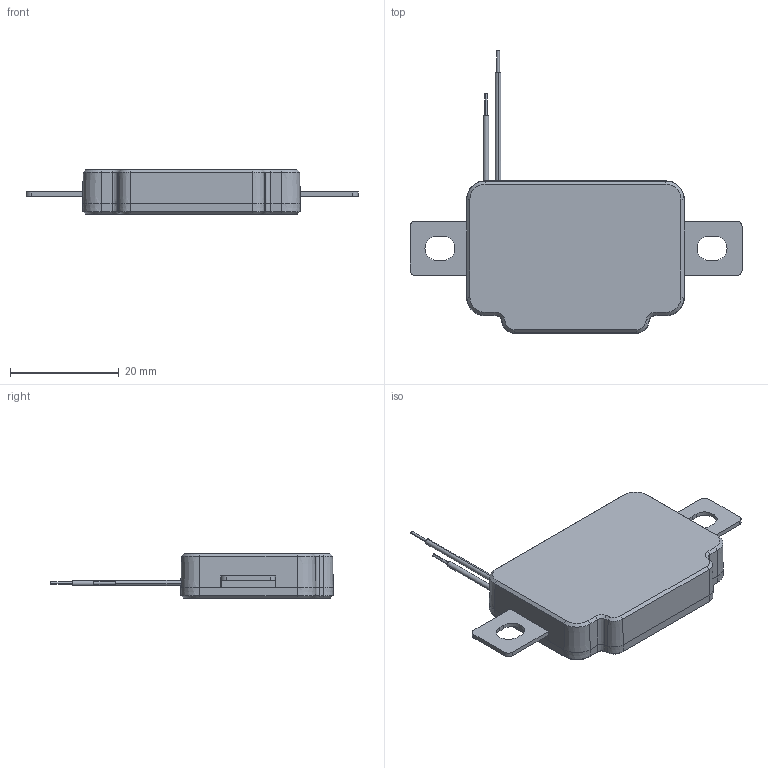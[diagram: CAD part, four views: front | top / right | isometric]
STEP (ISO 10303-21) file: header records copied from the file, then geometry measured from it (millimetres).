
FILE_DESCRIPTION((''),'2;1');
FILE_NAME('MRL-R','2024-01-24T',('1029438'),(''),'PRO/ENGINEER BY PARAMETRIC TECHNOLOGY CORPORATION, 2012310','PRO/ENGINEER BY PARAMETRIC TECHNOLOGY CORPORATION, 2012310','');
FILE_SCHEMA(('CONFIG_CONTROL_DESIGN','SHAPE_APPEARANCE_LAYERS_GROUPS'));
Length unit declared in the file: millimetre
Products named in the file (1): MRL-R
Bounding box: 61 x 51.9 x 8.2 mm (x, y, z)
Surface area: 3612.5 mm2 (no closed solid volume)
Topology: 0 solids, 6 shells, 102 faces, 286 edges, 192 vertices
Faces by surface type: plane 54, cone 32, cylinder 16
Entity records: 4066 total; most frequent: CARTESIAN_POINT 658, DIRECTION 563, ORIENTED_EDGE 496, EDGE_CURVE 286, VERTEX_POINT 192, AXIS2_PLACEMENT_3D 188, VECTOR 187, LINE 187
